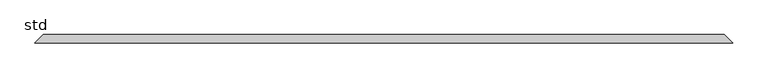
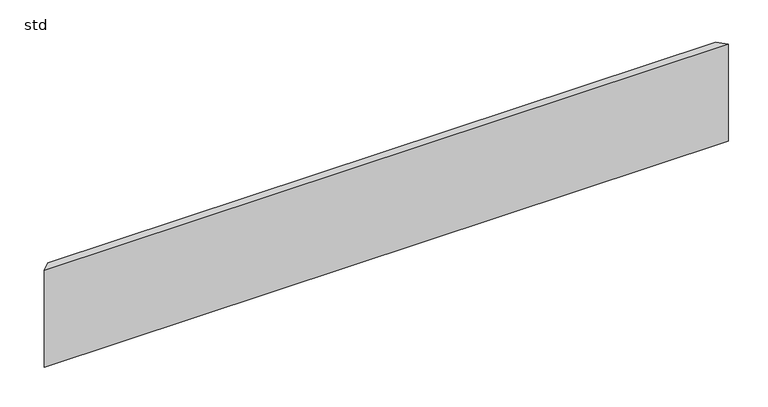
"""IFC4 building model written with IfcOpenShell, lengths in millimetres: proxy geometry, 300_41_ISR_lb_multiplex : std."""

import ifcopenshell
import ifcopenshell.guid

model = None  # the IFC model being written
_history = None  # IfcOwnerHistory: only IFC2X3 demands one
_inside = {}  # id of a spatial element -> (the spatial element, [elements in it])
_under = {}  # id of a project, library or spatial element -> (it, [spatial elements below it])
_declared = {}  # id of a project -> (the project, [libraries it declares])
_typed = {}  # id of a type object -> (the type object, [elements of that type])
_made_of = {}  # id of a material, layer set ... -> (it, [elements and type objects made of it])


def new_model(schema):
    """Start an empty IFC model of exactly this schema.

    Asked for "IFC4X3", IfcOpenShell would pick the latest addendum, in which some entities
    have other attributes; the version numbers below select the first issue.
    IFC2X3 requires an IfcOwnerHistory on every rooted entity: one is made here for all.
    """
    global model, _history
    if schema == "IFC4X3":
        model = ifcopenshell.file(schema_version=(4, 3, 0, 0))
    else:
        model = ifcopenshell.file(schema=schema)
    _inside.clear()
    _under.clear()
    _declared.clear()
    _typed.clear()
    _made_of.clear()
    _history = None
    if model.schema == "IFC2X3":
        org = make("IfcOrganization", Name="unknown")
        user = make(
            "IfcPersonAndOrganization",
            ThePerson=make("IfcPerson", FamilyName="unknown"),
            TheOrganization=org,
        )
        app = make(
            "IfcApplication",
            ApplicationDeveloper=org,
            Version="unknown",
            ApplicationFullName="unknown",
            ApplicationIdentifier="unknown",
        )
        _history = make(
            "IfcOwnerHistory",
            OwningUser=user,
            OwningApplication=app,
            ChangeAction="ADDED",
            CreationDate=0,
        )
    return model


def make(cls, **values):
    """One entity of the class cls with the attributes given. An attribute that is None is left unset."""
    return model.create_entity(
        cls, **{name: value for name, value in values.items() if value is not None}
    )


def rooted(cls, **values):
    """An entity with a GlobalId (a new one), such as an element, a storey or a relation."""
    return make(cls, GlobalId=ifcopenshell.guid.new(), OwnerHistory=_history, **values)


def si_unit(unit_type, name, prefix=None):
    """IfcSIUnit, for example si_unit("LENGTHUNIT", "METRE", prefix="MILLI")."""
    return make("IfcSIUnit", UnitType=unit_type, Prefix=prefix, Name=name)


def assignment(units):
    """IfcUnitAssignment: the units of a project."""
    return None if units is None else make("IfcUnitAssignment", Units=units)


def point(xyz):
    """IfcCartesianPoint."""
    return None if xyz is None else make("IfcCartesianPoint", Coordinates=xyz)


def direction(xyz):
    """IfcDirection."""
    return None if xyz is None else make("IfcDirection", DirectionRatios=xyz)


def frame(location, z_axis=None, x_axis=None):
    """IfcAxis2Placement3D, a coordinate frame: its origin and axes. An axis left out is left unset."""
    return make(
        "IfcAxis2Placement3D",
        Location=point(location),
        Axis=direction(z_axis),
        RefDirection=direction(x_axis),
    )


def origin():
    """The frame at (0, 0, 0) with its axes left unset."""
    return frame((0.0, 0.0, 0.0))


def origin_with_axes():
    """The frame at (0, 0, 0) with the z axis (0, 0, 1) and the x axis (1, 0, 0) written out."""
    return frame((0.0, 0.0, 0.0), z_axis=(0.0, 0.0, 1.0), x_axis=(1.0, 0.0, 0.0))


def place(relative_to, where):
    """IfcLocalPlacement: puts the frame where relative to a parent placement (None: the world)."""
    return make(
        "IfcLocalPlacement", PlacementRelTo=relative_to, RelativePlacement=where
    )


def context(
    kind, dimensions, precision=None, world=None, true_north=None, identifier=None
):
    """IfcGeometricRepresentationContext, for example the 3D "Model" context."""
    return make(
        "IfcGeometricRepresentationContext",
        ContextIdentifier=identifier,
        ContextType=kind,
        CoordinateSpaceDimension=dimensions,
        Precision=precision,
        WorldCoordinateSystem=world,
        TrueNorth=true_north,
    )


def project(units=None, contexts=None):
    """IfcProject with its units and contexts."""
    return rooted(
        "IfcProject",
        Name="project",
        RepresentationContexts=contexts,
        UnitsInContext=assignment(units),
    )


def spatial(cls, under=None, at=None, **own):
    """A site, building, storey or space (cls), placed at a placement, below another one or the project."""
    s = rooted(cls, ObjectPlacement=at, **own)
    if under is not None:
        _under.setdefault(under.id(), (under, []))[1].append(s)
    return s


def polyline(points):
    """IfcPolyline through the points."""
    return make("IfcPolyline", Points=[point(p) for p in points])


def outline(outer, holes=None, kind="AREA"):
    """IfcArbitraryClosedProfileDef: a profile drawn as a closed curve; with holes, ...WithVoids."""
    if holes is None:
        return make("IfcArbitraryClosedProfileDef", ProfileType=kind, OuterCurve=outer)
    return make(
        "IfcArbitraryProfileDefWithVoids",
        ProfileType=kind,
        OuterCurve=outer,
        InnerCurves=holes,
    )


def extrude(swept, where, along, depth):
    """IfcExtrudedAreaSolid: the profile swept, set in the frame where, extruded along a direction by depth."""
    return make(
        "IfcExtrudedAreaSolid",
        SweptArea=swept,
        Position=where,
        ExtrudedDirection=direction(along),
        Depth=depth,
    )


def shape(context_of_items, identifier, shape_type, items):
    """IfcShapeRepresentation: the items that make up one representation, for example the "Body"."""
    return make(
        "IfcShapeRepresentation",
        ContextOfItems=context_of_items,
        RepresentationIdentifier=identifier,
        RepresentationType=shape_type,
        Items=items,
    )


def source(mapping_origin, context_of_items, identifier, shape_type, items):
    """IfcRepresentationMap: a shape defined once, which mapped items show again and again."""
    return make(
        "IfcRepresentationMap",
        MappingOrigin=mapping_origin,
        MappedRepresentation=shape(context_of_items, identifier, shape_type, items),
    )


def transform(
    local_origin,
    x_axis=None,
    y_axis=None,
    z_axis=None,
    scale=None,
    scale2=None,
    scale3=None,
    uniform=True,
):
    """IfcCartesianTransformationOperator3D, or its non-uniform kind. x_axis, y_axis, z_axis: its Axis1, 2, 3."""
    if uniform:
        return make(
            "IfcCartesianTransformationOperator3D",
            Axis1=direction(x_axis),
            Axis2=direction(y_axis),
            LocalOrigin=point(local_origin),
            Scale=scale,
            Axis3=direction(z_axis),
        )
    return make(
        "IfcCartesianTransformationOperator3DnonUniform",
        Axis1=direction(x_axis),
        Axis2=direction(y_axis),
        LocalOrigin=point(local_origin),
        Scale=scale,
        Axis3=direction(z_axis),
        Scale2=scale2,
        Scale3=scale3,
    )


def mapped(mapping_source, mapping_target):
    """IfcMappedItem: shows the shape of a source again, moved by a transform."""
    return make(
        "IfcMappedItem", MappingSource=mapping_source, MappingTarget=mapping_target
    )


def made_of(thing, what):
    """Note that an element or type object is made of a material, layer set ...; save() writes the relation."""
    if what is not None:
        _made_of.setdefault(what.id(), (what, []))[1].append(thing)
    return thing


def element(
    cls,
    number,
    at=None,
    inside=None,
    cuts=None,
    type_object=None,
    material=None,
    context=None,
    identifier="Body",
    shape_type=None,
    held_by="IfcProductDefinitionShape",
    body=None,
    shapes=None,
    **own,
):
    """One element of the class cls, such as IfcWall. Its Tag is "e" and its number.

    at: its placement. inside: the storey or other place that contains it. cuts: it is an
    opening in that element (IfcRelVoidsElement). A single representation is given by context,
    identifier, shape_type and body (its items); several are given by shapes. held_by: the class
    of the entity that holds the representations. save() writes the other relations.
    """
    e = rooted(cls, Tag="e%d" % number, ObjectPlacement=at, **own)
    if body is not None:
        shapes = [shape(context, identifier, shape_type, body)]
    if shapes is not None:
        e.Representation = make(held_by, Representations=shapes)
    if inside is not None:
        _inside.setdefault(inside.id(), (inside, []))[1].append(e)
    if cuts is not None:
        rooted(
            "IfcRelVoidsElement", RelatingBuildingElement=cuts, RelatedOpeningElement=e
        )
    if type_object is not None:
        _typed.setdefault(type_object.id(), (type_object, []))[1].append(e)
    return made_of(e, material)


def aggregate(whole, parts):
    """IfcRelAggregates: a whole, such as a stair, and the parts it consists of."""
    return rooted("IfcRelAggregates", RelatingObject=whole, RelatedObjects=parts)


def save(model, path):
    """Write the relations noted so far, then the file.

    IfcRelAggregates (storeys below a building ...), IfcRelContainedInSpatialStructure (elements
    in a storey), IfcRelDefinesByType, IfcRelAssociatesMaterial and IfcRelDeclares: one each for
    every whole, place, type object, material and project.
    """
    for whole, parts in _under.values():
        aggregate(whole, parts)
    for where, things in _inside.values():
        rooted(
            "IfcRelContainedInSpatialStructure",
            RelatedElements=things,
            RelatingStructure=where,
        )
    for kind, things in _typed.values():
        rooted("IfcRelDefinesByType", RelatedObjects=things, RelatingType=kind)
    for what, things in _made_of.values():
        rooted("IfcRelAssociatesMaterial", RelatedObjects=things, RelatingMaterial=what)
    for by, libraries in _declared.values():
        rooted("IfcRelDeclares", RelatingContext=by, RelatedDefinitions=libraries)
    model.write(path)


def std_7f9111ec(model_context):
    return source(origin(), model_context, "Body", "SweptSolid", [
        extrude(outline(polyline([(500.0, 0.0), (-500.0, 0.0), (-488.0, 12.0), (488.0, 12.0), (500.0, 0.0)])), origin_with_axes(), (0.0, 0.0, 1.0), 150.0),
    ])


if __name__ == "__main__":
    model = new_model("IFC4")
    model_context = context("Model", 3, world=origin())
    ifc_project = project(units=[si_unit("LENGTHUNIT", "METRE", prefix="MILLI")], contexts=[model_context])
    site = spatial("IfcSite", under=ifc_project)
    building = spatial("IfcBuilding", under=site)
    placement = place(None, origin())
    std_shape = std_7f9111ec(model_context)
    element("IfcBuildingElementProxy", 1, Name="300_41_ISR_lb_multiplex : std", ObjectType="300_41_ISR_lb_multiplex : std", at=placement, inside=building, context=model_context, shape_type="MappedRepresentation", body=[
        mapped(std_shape, transform((0.0, 0.0, 0.0), x_axis=(1.0, 0.0, 0.0), y_axis=(0.0, 1.0, 0.0), z_axis=(0.0, 0.0, 1.0))),
    ])
    save(model, "model.ifc")
